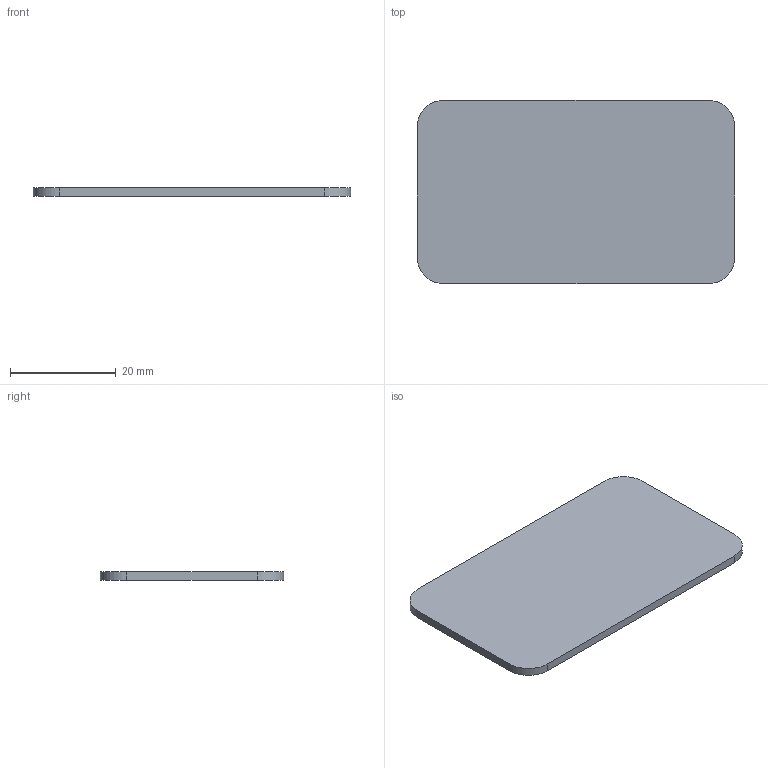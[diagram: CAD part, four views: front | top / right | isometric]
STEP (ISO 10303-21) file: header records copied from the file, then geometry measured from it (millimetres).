
FILE_DESCRIPTION (( 'STEP AP203' ), '1' );
FILE_NAME ('REF_receiver_pcb.step', '2026-10-06T17:15:51', ( '' ), ( '' ), 'SwSTEP 2.0', 'SolidWorks 2025', '' );
FILE_SCHEMA (( 'CONFIG_CONTROL_DESIGN' ));
Length unit declared in the file: millimetre
Products named in the file (1): REF_receiver_pcb
Bounding box: 60 x 34.62 x 1.6 mm (x, y, z)
Volume: 3289.1 mm3; surface area: 4400.4 mm2
Topology: 1 solids, 1 shells, 10 faces, 24 edges, 16 vertices
Faces by surface type: plane 6, cylinder 4
Entity records: 373 total; most frequent: DIRECTION 54, CARTESIAN_POINT 51, ORIENTED_EDGE 48, EDGE_CURVE 24, AXIS2_PLACEMENT_3D 19, LINE 16, VECTOR 16, VERTEX_POINT 16
